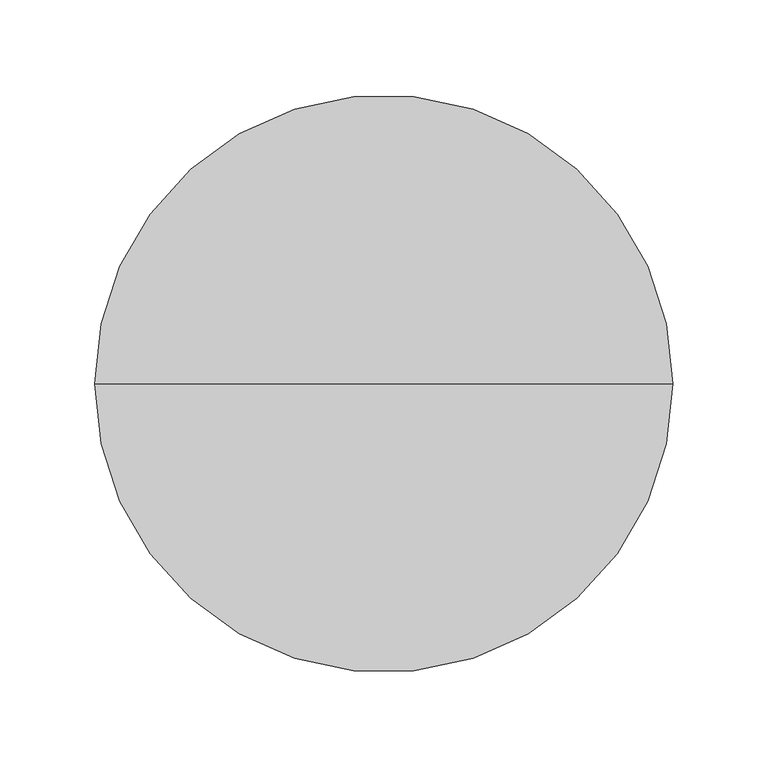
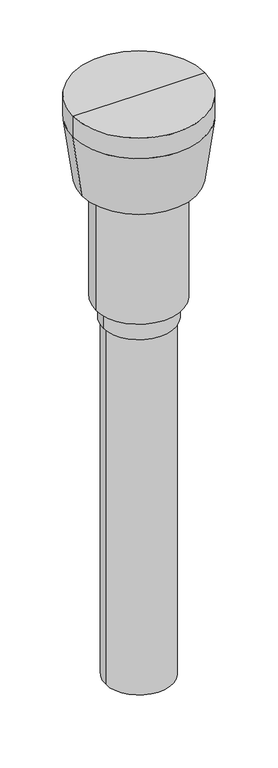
"""IFC4 building model written with IfcOpenShell, lengths in millimetres: air terminal geometry, NLRS_57_AIR_WPB_EASYAIR roof ventilation terminals_M&G : EPS Black, ø125 - L=1410mm."""

from ifc_helpers import new_model, si_unit, frame, origin, place, context, project, spatial, polyline, circle_curve, source, transform, mapped, element, save
from ifc_brep_helpers import plane_surface, cylinder_surface, revolved_surface, advanced_brep


def air_terminal_c92009a5(model_context):
    return source(origin(), model_context, "Body", "AdvancedBrep", [
        advanced_brep(
        [(77.0, 0.0, -920.0), (-77.0, 0.0, -920.0), (-77.0, 0.0, -50.0), (77.0, 0.0, -50.0), (0.0, 0.0, -920.0), (0.0, 0.0, -50.0)],
        [
            (0, 1, circle_curve(frame((0.0, 0.0, -920.0), z_axis=(0.0, 0.0, 1.0), x_axis=(-1.0, 0.0, 0.0)), 77.0)),
            (1, 2),
            (2, 3, circle_curve(frame((0.0, 0.0, -50.0), z_axis=(0.0, 0.0, -1.0), x_axis=(-1.0, 0.0, 0.0)), 77.0)),
            (3, 0),
            (1, 0, circle_curve(frame((0.0, 0.0, -920.0), z_axis=(0.0, 0.0, 1.0), x_axis=(-1.0, 0.0, 0.0)), 77.0)),
            (3, 2, circle_curve(frame((0.0, 0.0, -50.0), z_axis=(0.0, 0.0, -1.0), x_axis=(-1.0, 0.0, 0.0)), 77.0)),
            (4, 1),
            (0, 4),
            (2, 5),
            (5, 3),
        ],
        [
            cylinder_surface(frame((0.0, 0.0, 2183.3150031), z_axis=(0.0, 0.0, -1.0), x_axis=(-1.0, 0.0, 0.0)), 77.0),
            plane_surface(frame((0.0, 0.0, -920.0), z_axis=(0.0, 0.0, -1.0), x_axis=(-1.0, 0.0, 0.0))),
            plane_surface(frame((0.0, 0.0, -50.0), z_axis=(0.0, 0.0, 1.0), x_axis=(-1.0, 0.0, 0.0))),
        ],
        [
            (0, [[1, 2, 3, 4]]),
            (0, [[5, -4, 6, -2]]),
            (1, [[7, -1, 8]]),
            (1, [[-8, -5, -7]]),
            (2, [[-3, 9, 10]]),
            (2, [[-6, -10, -9]]),
        ],
    ),
        advanced_brep(
        [(152.0, 0.0, 490.0), (-152.0, 0.0, 490.0), (0.0, 0.0, 490.0), (82.5, 0.0, -50.0), (-82.5, 0.0, -50.0), (-82.5, 0.0, 0.0), (82.5, 0.0, 0.0), (0.0, 0.0, -50.0), (152.0, 0.0, 440.0), (-152.0, 0.0, 440.0), (132.0, 0.0, 290.0), (-132.0, 0.0, 290.0), (100.0, 0.0, 0.0), (-100.0, 0.0, 0.0), (-100.0, 0.0, 290.0), (100.0, 0.0, 290.0)],
        [
            (0, 1, circle_curve(frame((0.0, 0.0, 490.0), z_axis=(0.0, 0.0, 1.0), x_axis=(-1.0, 0.0, 0.0)), 152.0)),
            (1, 2),
            (2, 0),
            (1, 0, circle_curve(frame((0.0, 0.0, 490.0), z_axis=(0.0, 0.0, 1.0), x_axis=(-1.0, 0.0, 0.0)), 152.0)),
            (3, 4, circle_curve(frame((0.0, 0.0, -50.0), z_axis=(0.0, 0.0, 1.0), x_axis=(-1.0, 0.0, 0.0)), 82.5)),
            (4, 5),
            (5, 6, circle_curve(frame((0.0, 0.0, 0.0), z_axis=(0.0, 0.0, -1.0), x_axis=(-1.0, 0.0, 0.0)), 82.5)),
            (6, 3),
            (4, 3, circle_curve(frame((0.0, 0.0, -50.0), z_axis=(0.0, 0.0, 1.0), x_axis=(-1.0, 0.0, 0.0)), 82.5)),
            (6, 5, circle_curve(frame((0.0, 0.0, 0.0), z_axis=(0.0, 0.0, -1.0), x_axis=(-1.0, 0.0, 0.0)), 82.5)),
            (7, 4),
            (3, 7),
            (8, 9, circle_curve(frame((0.0, 0.0, 440.0), z_axis=(0.0, 0.0, 1.0), x_axis=(-1.0, 0.0, 0.0)), 152.0)),
            (9, 1),
            (0, 8),
            (9, 8, circle_curve(frame((0.0, 0.0, 440.0), z_axis=(0.0, 0.0, 1.0), x_axis=(-1.0, 0.0, 0.0)), 152.0)),
            (10, 11, circle_curve(frame((0.0, 0.0, 290.0), z_axis=(0.0, 0.0, 1.0), x_axis=(-1.0, 0.0, 0.0)), 132.0)),
            (11, 9),
            (8, 10),
            (11, 10, circle_curve(frame((0.0, 0.0, 290.0), z_axis=(0.0, 0.0, 1.0), x_axis=(-1.0, 0.0, 0.0)), 132.0)),
            (12, 13, circle_curve(frame((0.0, 0.0, 0.0), z_axis=(0.0, 0.0, 1.0), x_axis=(-1.0, 0.0, 0.0)), 100.0)),
            (13, 14),
            (14, 15, circle_curve(frame((0.0, 0.0, 290.0), z_axis=(0.0, 0.0, -1.0), x_axis=(-1.0, 0.0, 0.0)), 100.0)),
            (15, 12),
            (13, 12, circle_curve(frame((0.0, 0.0, 0.0), z_axis=(0.0, 0.0, 1.0), x_axis=(-1.0, 0.0, 0.0)), 100.0)),
            (15, 14, circle_curve(frame((0.0, 0.0, 290.0), z_axis=(0.0, 0.0, -1.0), x_axis=(-1.0, 0.0, 0.0)), 100.0)),
            (5, 13),
            (12, 6),
            (14, 11),
            (10, 15),
        ],
        [
            plane_surface(frame((0.0, 0.0, 490.0), z_axis=(0.0, 0.0, 1.0), x_axis=(-1.0, 0.0, 0.0))),
            cylinder_surface(frame((0.0, 0.0, 2237.3150031), z_axis=(0.0, 0.0, -1.0), x_axis=(-1.0, 0.0, 0.0)), 82.5),
            plane_surface(frame((0.0, 0.0, -50.0), z_axis=(0.0, 0.0, -1.0), x_axis=(-1.0, 0.0, 0.0))),
            cylinder_surface(frame((0.0, 0.0, 2237.3150031), z_axis=(0.0, 0.0, -1.0), x_axis=(-1.0, 0.0, 0.0)), 152.0),
            revolved_surface(polyline([(-152.0, 0.0, 440.0), (-132.0, 0.0, 290.0)]), (0.0, 0.0, 2237.3150031), (0.0, 0.0, -1.0)),
            cylinder_surface(frame((0.0, 0.0, 2237.3150031), z_axis=(0.0, 0.0, -1.0), x_axis=(-1.0, 0.0, 0.0)), 100.0),
            plane_surface(frame((0.0, 0.0, 0.0), z_axis=(0.0, 0.0, -1.0), x_axis=(-1.0, 0.0, 0.0))),
            plane_surface(frame((0.0, 0.0, 290.0), z_axis=(0.0, 0.0, -1.0), x_axis=(-1.0, 0.0, 0.0))),
        ],
        [
            (0, [[1, 2, 3]]),
            (0, [[4, -3, -2]]),
            (1, [[5, 6, 7, 8]]),
            (1, [[9, -8, 10, -6]]),
            (2, [[11, -5, 12]]),
            (2, [[-12, -9, -11]]),
            (3, [[13, 14, -1, 15]]),
            (3, [[16, -15, -4, -14]]),
            (4, [[17, 18, -13, 19]]),
            (4, [[20, -19, -16, -18]]),
            (5, [[21, 22, 23, 24]]),
            (5, [[25, -24, 26, -22]]),
            (6, [[-7, 27, -21, 28]]),
            (6, [[-10, -28, -25, -27]]),
            (7, [[-23, 29, -17, 30]]),
            (7, [[-26, -30, -20, -29]]),
        ],
    ),
    ])


if __name__ == "__main__":
    model = new_model("IFC4")
    model_context = context("Model", 3, world=origin())
    ifc_project = project(units=[si_unit("LENGTHUNIT", "METRE", prefix="MILLI")], contexts=[model_context])
    site = spatial("IfcSite", under=ifc_project)
    building = spatial("IfcBuilding", under=site)
    placement = place(None, origin())
    air_terminal_shape = air_terminal_c92009a5(model_context)
    element("IfcAirTerminal", 1, ObjectType="NLRS_57_AIR_WPB_EASYAIR roof ventilation terminals_M&G : EPS Black, ø125 - L=1410mm", at=placement, inside=building, context=model_context, shape_type="MappedRepresentation", body=[
        mapped(air_terminal_shape, transform((0.0, 0.0, 0.0), x_axis=(1.0, 0.0, 0.0), y_axis=(0.0, 1.0, 0.0), z_axis=(0.0, 0.0, 1.0))),
    ])
    save(model, "model.ifc")
